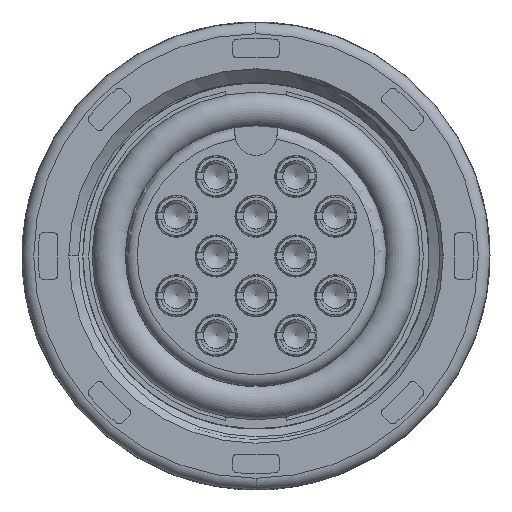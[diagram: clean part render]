
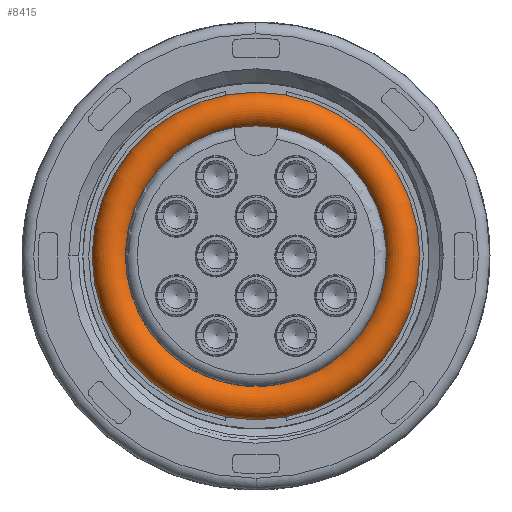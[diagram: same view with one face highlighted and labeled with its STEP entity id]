
A CAD part, left-side view. The second image highlights one B-rep face of the part: STEP entity #8415.
In plain terms, the highlighted toroidal (fillet/blend) face has major radius 6.25 mm and minor radius 0.75 mm.
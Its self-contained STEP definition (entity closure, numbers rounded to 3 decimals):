
#8415=ADVANCED_FACE('',(#9003),#8981,.T.);
#8981=TOROIDAL_SURFACE('',#10138,6.25,0.75);
#9003=FACE_BOUND('',#9175,.T.);
#9175=VERTEX_LOOP('',#9178);
#9178=VERTEX_POINT('',#13995);
#10138=AXIS2_PLACEMENT_3D('',#13996,#11210,#11211);
#11210=DIRECTION('',(1.,0.,0.));
#11211=DIRECTION('',(0.,0.,-1.));
#13995=CARTESIAN_POINT('',(0.,0.,-7.));
#13996=CARTESIAN_POINT('',(0.,0.,0.));
